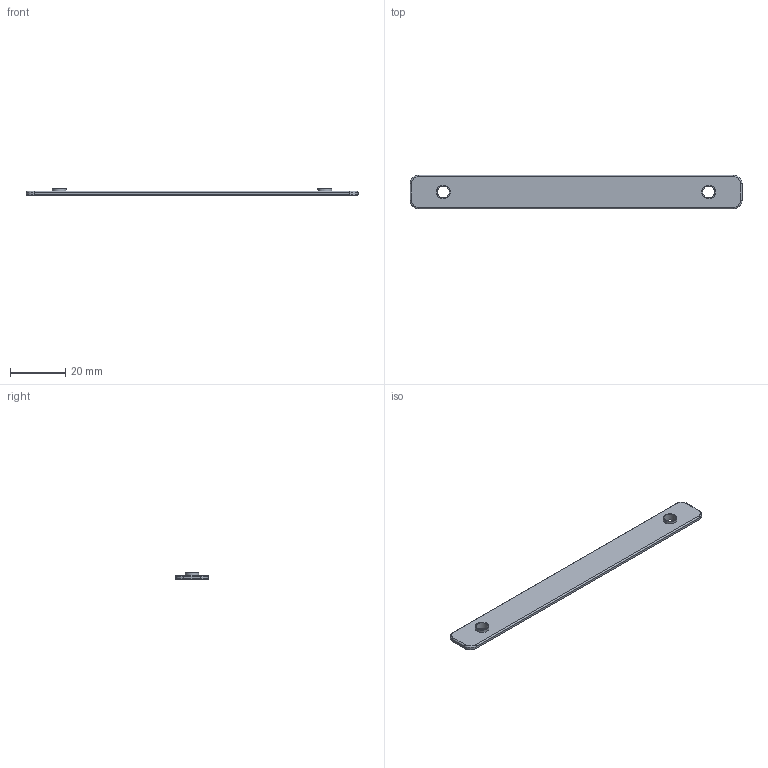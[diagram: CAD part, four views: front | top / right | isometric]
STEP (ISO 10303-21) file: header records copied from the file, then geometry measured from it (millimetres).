
FILE_DESCRIPTION(('Open CASCADE Model'),'2;1');
FILE_NAME('W-BAR-WL96-12','2026-10-19T21:23:54',('Author'),( 'Open CASCADE'),'Open CASCADE STEP processor 8.0','build123d', 'Unknown');
FILE_SCHEMA(('AUTOMOTIVE_DESIGN { 1 0 10303 214 1 1 1 1 }'));
Length unit declared in the file: millimetre
Products named in the file (2): W-BAR-WL96-12; brass_WL96-12__w
Assembly tree (1 placements, depth 2):
  W-BAR-WL96-12
    brass_WL96-12__w
Bounding box: 120 x 12 x 2.49 mm (x, y, z)
Volume: 2096 mm3; surface area: 3207.1 mm2
Topology: 1 solids, 1 shells, 32 faces, 68 edges, 40 vertices
Faces by surface type: plane 12, cylinder 12, cone 4, torus 4
Full cylindrical faces by diameter (mm): 4.3 x2, 5 x2
Entity records: 1768 total; most frequent: CARTESIAN_POINT 358, DIRECTION 264, ORIENTED_EDGE 136, PCURVE 136, DEFINITIONAL_REPRESENTATION 136, LINE 124, VECTOR 124, EDGE_CURVE 68
